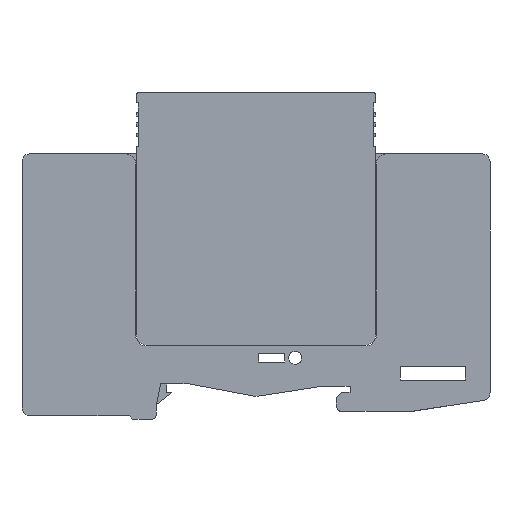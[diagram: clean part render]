
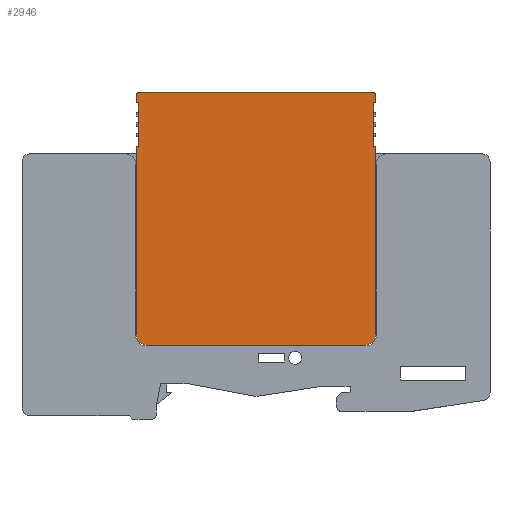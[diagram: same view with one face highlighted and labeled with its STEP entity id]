
A CAD part, left-side view. The second image highlights one B-rep face of the part: STEP entity #2946.
In plain terms, the highlighted planar face has unit normal (-1, 0, 0).
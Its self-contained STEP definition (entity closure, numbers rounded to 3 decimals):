
#499 = VECTOR ( 'NONE', #1577, 1000. ) ;
#611 = AXIS2_PLACEMENT_3D ( 'NONE', #1932, #1933, #1934 ) ;
#616 = FACE_OUTER_BOUND ( 'NONE', #5034, .T. ) ;
#635 = AXIS2_PLACEMENT_3D ( 'NONE', #1849, #1892, #1893 ) ;
#638 = VECTOR ( 'NONE', #1885, 1000. ) ;
#644 = VECTOR ( 'NONE', #1876, 1000. ) ;
#649 = VECTOR ( 'NONE', #1867, 1000. ) ;
#1575 = LINE ( 'NONE', #1576, #499 ) ;
#1576 = CARTESIAN_POINT ( 'NONE',  ( -8.9, 22.525, 21. ) ) ;
#1577 = DIRECTION ( 'NONE',  ( 0., 1., 0. ) ) ;
#1849 = CARTESIAN_POINT ( 'NONE',  ( -8.9, 22.425, 30.8 ) ) ;
#1865 = LINE ( 'NONE', #1866, #649 ) ;
#1866 = CARTESIAN_POINT ( 'NONE',  ( -8.9, 22.525, 29.3 ) ) ;
#1867 = DIRECTION ( 'NONE',  ( 0., 0., -1. ) ) ;
#1874 = LINE ( 'NONE', #1875, #644 ) ;
#1875 = CARTESIAN_POINT ( 'NONE',  ( -8.9, 22.925, 29.3 ) ) ;
#1876 = DIRECTION ( 'NONE',  ( 0., -1., 0. ) ) ;
#1883 = LINE ( 'NONE', #1884, #638 ) ;
#1884 = CARTESIAN_POINT ( 'NONE',  ( -8.9, 22.925, 31.3 ) ) ;
#1885 = DIRECTION ( 'NONE',  ( 0., 0., -1. ) ) ;
#1892 = DIRECTION ( 'NONE',  ( -1., 0., 0. ) ) ;
#1893 = DIRECTION ( 'NONE',  ( 0., 0., 1. ) ) ;
#1931 = PLANE ( 'NONE',  #611 ) ;
#1932 = CARTESIAN_POINT ( 'NONE',  ( -8.9, 0., 0. ) ) ;
#1933 = DIRECTION ( 'NONE',  ( -1., 0., 0. ) ) ;
#1934 = DIRECTION ( 'NONE',  ( 0., 0., 1. ) ) ;
#2770 = EDGE_CURVE ( 'NONE', #3614, #3677, #1575, .T. ) ;
#2772 = CIRCLE ( 'NONE', #635, 0.5 ) ;
#2926 = EDGE_CURVE ( 'NONE', #3613, #3614, #1865, .T. ) ;
#2929 = EDGE_CURVE ( 'NONE', #3611, #3613, #1874, .T. ) ;
#2932 = EDGE_CURVE ( 'NONE', #3610, #3611, #1883, .T. ) ;
#2935 = EDGE_CURVE ( 'NONE', #3608, #3610, #2772, .T. ) ;
#2946 = ADVANCED_FACE ( 'NONE', ( #616 ), #1931, .T. ) ;
#3346 = EDGE_CURVE ( 'NONE', #3677, #3678, #6908, .T. ) ;
#3395 = EDGE_CURVE ( 'NONE', #3608, #3606, #7055, .T. ) ;
#3398 = EDGE_CURVE ( 'NONE', #3604, #3606, #3517, .T. ) ;
#3401 = EDGE_CURVE ( 'NONE', #3604, #3601, #7073, .T. ) ;
#3405 = EDGE_CURVE ( 'NONE', #3601, #3600, #7085, .T. ) ;
#3408 = EDGE_CURVE ( 'NONE', #3600, #3598, #7094, .T. ) ;
#3413 = EDGE_CURVE ( 'NONE', #3598, #3596, #7109, .T. ) ;
#3415 = EDGE_CURVE ( 'NONE', #3596, #3594, #7115, .T. ) ;
#3417 = EDGE_CURVE ( 'NONE', #3592, #3594, #3515, .T. ) ;
#3418 = EDGE_CURVE ( 'NONE', #3592, #3591, #7124, .T. ) ;
#3419 = EDGE_CURVE ( 'NONE', #3678, #3591, #3514, .T. ) ;
#3514 = CIRCLE ( 'NONE', #4938, 2. ) ;
#3515 = CIRCLE ( 'NONE', #4946, 2. ) ;
#3517 = CIRCLE ( 'NONE', #4906, 0.5 ) ;
#3591 = VERTEX_POINT ( 'NONE', #7442 ) ;
#3592 = VERTEX_POINT ( 'NONE', #7443 ) ;
#3594 = VERTEX_POINT ( 'NONE', #7445 ) ;
#3596 = VERTEX_POINT ( 'NONE', #7447 ) ;
#3598 = VERTEX_POINT ( 'NONE', #7449 ) ;
#3600 = VERTEX_POINT ( 'NONE', #7451 ) ;
#3601 = VERTEX_POINT ( 'NONE', #7452 ) ;
#3604 = VERTEX_POINT ( 'NONE', #7455 ) ;
#3606 = VERTEX_POINT ( 'NONE', #7457 ) ;
#3608 = VERTEX_POINT ( 'NONE', #7459 ) ;
#3610 = VERTEX_POINT ( 'NONE', #7461 ) ;
#3611 = VERTEX_POINT ( 'NONE', #7462 ) ;
#3613 = VERTEX_POINT ( 'NONE', #7464 ) ;
#3614 = VERTEX_POINT ( 'NONE', #7465 ) ;
#3677 = VERTEX_POINT ( 'NONE', #7528 ) ;
#3678 = VERTEX_POINT ( 'NONE', #7529 ) ;
#3938 = VECTOR ( 'NONE', #6910, 1000. ) ;
#4906 = AXIS2_PLACEMENT_3D ( 'NONE', #6820, #7064, #7065 ) ;
#4908 = VECTOR ( 'NONE', #7087, 1000. ) ;
#4929 = VECTOR ( 'NONE', #7075, 1000. ) ;
#4937 = VECTOR ( 'NONE', #7126, 1000. ) ;
#4938 = AXIS2_PLACEMENT_3D ( 'NONE', #7123, #7127, #7128 ) ;
#4942 = VECTOR ( 'NONE', #7117, 1000. ) ;
#4946 = AXIS2_PLACEMENT_3D ( 'NONE', #7069, #7121, #7122 ) ;
#4947 = VECTOR ( 'NONE', #7111, 1000. ) ;
#4954 = VECTOR ( 'NONE', #7057, 1000. ) ;
#4960 = VECTOR ( 'NONE', #7096, 1000. ) ;
#5034 = EDGE_LOOP ( 'NONE', ( #5109, #5107, #5108, #5105, #5106, #5104, #5103, #5102, #5101, #5100, #5099, #5098, #5097, #5096, #5095, #5094 ) ) ;
#5094 = ORIENTED_EDGE ( 'NONE', *, *, #3419, .T. ) ;
#5095 = ORIENTED_EDGE ( 'NONE', *, *, #3346, .T. ) ;
#5096 = ORIENTED_EDGE ( 'NONE', *, *, #2770, .T. ) ;
#5097 = ORIENTED_EDGE ( 'NONE', *, *, #2926, .T. ) ;
#5098 = ORIENTED_EDGE ( 'NONE', *, *, #2929, .T. ) ;
#5099 = ORIENTED_EDGE ( 'NONE', *, *, #2932, .T. ) ;
#5100 = ORIENTED_EDGE ( 'NONE', *, *, #2935, .T. ) ;
#5101 = ORIENTED_EDGE ( 'NONE', *, *, #3395, .F. ) ;
#5102 = ORIENTED_EDGE ( 'NONE', *, *, #3398, .T. ) ;
#5103 = ORIENTED_EDGE ( 'NONE', *, *, #3401, .F. ) ;
#5104 = ORIENTED_EDGE ( 'NONE', *, *, #3405, .F. ) ;
#5105 = ORIENTED_EDGE ( 'NONE', *, *, #3413, .F. ) ;
#5106 = ORIENTED_EDGE ( 'NONE', *, *, #3408, .F. ) ;
#5107 = ORIENTED_EDGE ( 'NONE', *, *, #3417, .T. ) ;
#5108 = ORIENTED_EDGE ( 'NONE', *, *, #3415, .F. ) ;
#5109 = ORIENTED_EDGE ( 'NONE', *, *, #3418, .F. ) ;
#6820 = CARTESIAN_POINT ( 'NONE',  ( -8.9, -22.425, 30.8 ) ) ;
#6908 = LINE ( 'NONE', #6909, #3938 ) ;
#6909 = CARTESIAN_POINT ( 'NONE',  ( -8.9, 22.925, 19.55 ) ) ;
#6910 = DIRECTION ( 'NONE',  ( 0., 0., -1. ) ) ;
#7055 = LINE ( 'NONE', #7056, #4954 ) ;
#7056 = CARTESIAN_POINT ( 'NONE',  ( -8.9, -44.8, 31.3 ) ) ;
#7057 = DIRECTION ( 'NONE',  ( 0., -1., 0. ) ) ;
#7064 = DIRECTION ( 'NONE',  ( -1., 0., 0. ) ) ;
#7065 = DIRECTION ( 'NONE',  ( 0., 0., 1. ) ) ;
#7069 = CARTESIAN_POINT ( 'NONE',  ( -8.9, -20.925, -15.07 ) ) ;
#7073 = LINE ( 'NONE', #7074, #4929 ) ;
#7074 = CARTESIAN_POINT ( 'NONE',  ( -8.9, -22.925, 31.3 ) ) ;
#7075 = DIRECTION ( 'NONE',  ( 0., 0., -1. ) ) ;
#7085 = LINE ( 'NONE', #7086, #4908 ) ;
#7086 = CARTESIAN_POINT ( 'NONE',  ( -8.9, -22.925, 29.3 ) ) ;
#7087 = DIRECTION ( 'NONE',  ( 0., 1., 0. ) ) ;
#7094 = LINE ( 'NONE', #7095, #4960 ) ;
#7095 = CARTESIAN_POINT ( 'NONE',  ( -8.9, -22.525, 29.3 ) ) ;
#7096 = DIRECTION ( 'NONE',  ( 0., 0., -1. ) ) ;
#7109 = LINE ( 'NONE', #7110, #4947 ) ;
#7110 = CARTESIAN_POINT ( 'NONE',  ( -8.9, -22.525, 21. ) ) ;
#7111 = DIRECTION ( 'NONE',  ( 0., -1., 0. ) ) ;
#7115 = LINE ( 'NONE', #7116, #4942 ) ;
#7116 = CARTESIAN_POINT ( 'NONE',  ( -8.9, -22.925, 19.55 ) ) ;
#7117 = DIRECTION ( 'NONE',  ( 0., 0., -1. ) ) ;
#7121 = DIRECTION ( 'NONE',  ( -1., 0., 0. ) ) ;
#7122 = DIRECTION ( 'NONE',  ( 0., 0., 1. ) ) ;
#7123 = CARTESIAN_POINT ( 'NONE',  ( -8.9, 20.925, -15.07 ) ) ;
#7124 = LINE ( 'NONE', #7125, #4937 ) ;
#7125 = CARTESIAN_POINT ( 'NONE',  ( -8.9, 0., -17.07 ) ) ;
#7126 = DIRECTION ( 'NONE',  ( 0., 1., 0. ) ) ;
#7127 = DIRECTION ( 'NONE',  ( -1., 0., 0. ) ) ;
#7128 = DIRECTION ( 'NONE',  ( 0., 0., 1. ) ) ;
#7442 = CARTESIAN_POINT ( 'NONE',  ( -8.9, 20.925, -17.07 ) ) ;
#7443 = CARTESIAN_POINT ( 'NONE',  ( -8.9, -20.925, -17.07 ) ) ;
#7445 = CARTESIAN_POINT ( 'NONE',  ( -8.9, -22.925, -15.07 ) ) ;
#7447 = CARTESIAN_POINT ( 'NONE',  ( -8.9, -22.925, 21. ) ) ;
#7449 = CARTESIAN_POINT ( 'NONE',  ( -8.9, -22.525, 21. ) ) ;
#7451 = CARTESIAN_POINT ( 'NONE',  ( -8.9, -22.525, 29.3 ) ) ;
#7452 = CARTESIAN_POINT ( 'NONE',  ( -8.9, -22.925, 29.3 ) ) ;
#7455 = CARTESIAN_POINT ( 'NONE',  ( -8.9, -22.925, 30.8 ) ) ;
#7457 = CARTESIAN_POINT ( 'NONE',  ( -8.9, -22.425, 31.3 ) ) ;
#7459 = CARTESIAN_POINT ( 'NONE',  ( -8.9, 22.425, 31.3 ) ) ;
#7461 = CARTESIAN_POINT ( 'NONE',  ( -8.9, 22.925, 30.8 ) ) ;
#7462 = CARTESIAN_POINT ( 'NONE',  ( -8.9, 22.925, 29.3 ) ) ;
#7464 = CARTESIAN_POINT ( 'NONE',  ( -8.9, 22.525, 29.3 ) ) ;
#7465 = CARTESIAN_POINT ( 'NONE',  ( -8.9, 22.525, 21. ) ) ;
#7528 = CARTESIAN_POINT ( 'NONE',  ( -8.9, 22.925, 21. ) ) ;
#7529 = CARTESIAN_POINT ( 'NONE',  ( -8.9, 22.925, -15.07 ) ) ;
